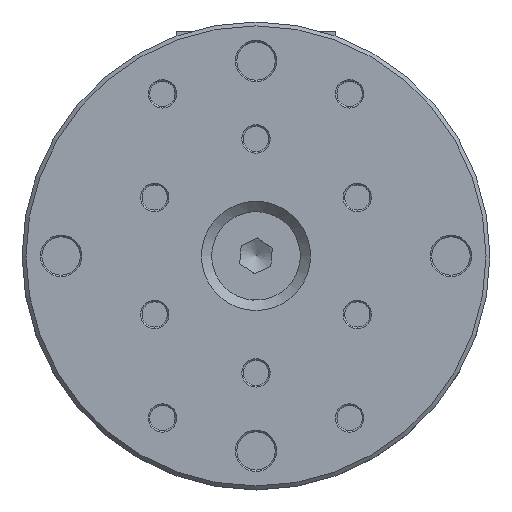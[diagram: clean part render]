
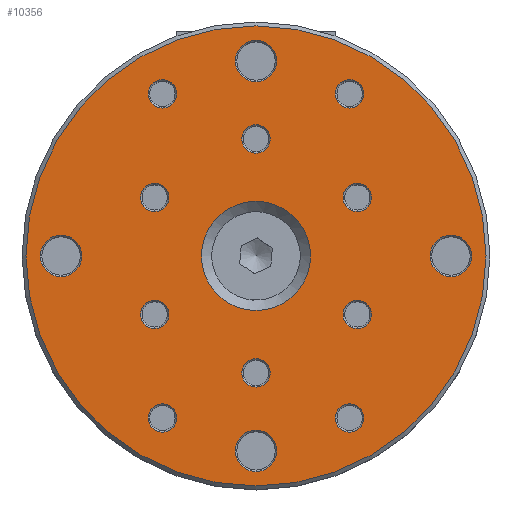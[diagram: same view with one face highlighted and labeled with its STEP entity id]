
A CAD part, top view. The second image highlights one B-rep face of the part: STEP entity #10356.
In plain terms, the highlighted planar face has unit normal (0, 0, 1).
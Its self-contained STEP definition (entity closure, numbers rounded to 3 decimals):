
#437=FACE_BOUND('',#2158,.T.);
#438=FACE_BOUND('',#2159,.T.);
#439=FACE_BOUND('',#2160,.T.);
#440=FACE_BOUND('',#2161,.T.);
#441=FACE_BOUND('',#2162,.T.);
#442=FACE_BOUND('',#2163,.T.);
#443=FACE_BOUND('',#2164,.T.);
#444=FACE_BOUND('',#2165,.T.);
#445=FACE_BOUND('',#2166,.T.);
#446=FACE_BOUND('',#2167,.T.);
#447=FACE_BOUND('',#2168,.T.);
#448=FACE_BOUND('',#2169,.T.);
#449=FACE_BOUND('',#2170,.T.);
#450=FACE_BOUND('',#2171,.T.);
#451=FACE_BOUND('',#2172,.T.);
#929=CIRCLE('',#11499,2.659);
#932=CIRCLE('',#11503,29.5);
#933=CIRCLE('',#11504,2.659);
#934=CIRCLE('',#11505,2.659);
#935=CIRCLE('',#11506,1.821);
#936=CIRCLE('',#11507,1.821);
#937=CIRCLE('',#11508,1.821);
#938=CIRCLE('',#11509,1.821);
#939=CIRCLE('',#11510,1.821);
#940=CIRCLE('',#11511,7.);
#941=CIRCLE('',#11512,1.821);
#942=CIRCLE('',#11513,1.821);
#943=CIRCLE('',#11514,1.821);
#944=CIRCLE('',#11515,1.821);
#945=CIRCLE('',#11516,1.821);
#946=CIRCLE('',#11517,2.659);
#1520=FACE_OUTER_BOUND('',#2157,.T.);
#2157=EDGE_LOOP('',(#8795));
#2158=EDGE_LOOP('',(#8796));
#2159=EDGE_LOOP('',(#8797));
#2160=EDGE_LOOP('',(#8798));
#2161=EDGE_LOOP('',(#8799));
#2162=EDGE_LOOP('',(#8800));
#2163=EDGE_LOOP('',(#8801));
#2164=EDGE_LOOP('',(#8802));
#2165=EDGE_LOOP('',(#8803));
#2166=EDGE_LOOP('',(#8804));
#2167=EDGE_LOOP('',(#8805));
#2168=EDGE_LOOP('',(#8806));
#2169=EDGE_LOOP('',(#8807));
#2170=EDGE_LOOP('',(#8808));
#2171=EDGE_LOOP('',(#8809));
#2172=EDGE_LOOP('',(#8810));
#4693=VERTEX_POINT('',#17664);
#4696=VERTEX_POINT('',#17672);
#4697=VERTEX_POINT('',#17674);
#4698=VERTEX_POINT('',#17676);
#4699=VERTEX_POINT('',#17678);
#4700=VERTEX_POINT('',#17680);
#4701=VERTEX_POINT('',#17682);
#4702=VERTEX_POINT('',#17684);
#4703=VERTEX_POINT('',#17686);
#4704=VERTEX_POINT('',#17688);
#4705=VERTEX_POINT('',#17690);
#4706=VERTEX_POINT('',#17692);
#4707=VERTEX_POINT('',#17694);
#4708=VERTEX_POINT('',#17696);
#4709=VERTEX_POINT('',#17698);
#4710=VERTEX_POINT('',#17700);
#6101=EDGE_CURVE('',#4693,#4693,#929,.T.);
#6105=EDGE_CURVE('',#4696,#4696,#932,.T.);
#6106=EDGE_CURVE('',#4697,#4697,#933,.T.);
#6107=EDGE_CURVE('',#4698,#4698,#934,.T.);
#6108=EDGE_CURVE('',#4699,#4699,#935,.T.);
#6109=EDGE_CURVE('',#4700,#4700,#936,.T.);
#6110=EDGE_CURVE('',#4701,#4701,#937,.T.);
#6111=EDGE_CURVE('',#4702,#4702,#938,.T.);
#6112=EDGE_CURVE('',#4703,#4703,#939,.T.);
#6113=EDGE_CURVE('',#4704,#4704,#940,.T.);
#6114=EDGE_CURVE('',#4705,#4705,#941,.T.);
#6115=EDGE_CURVE('',#4706,#4706,#942,.T.);
#6116=EDGE_CURVE('',#4707,#4707,#943,.T.);
#6117=EDGE_CURVE('',#4708,#4708,#944,.T.);
#6118=EDGE_CURVE('',#4709,#4709,#945,.T.);
#6119=EDGE_CURVE('',#4710,#4710,#946,.T.);
#8795=ORIENTED_EDGE('',*,*,#6105,.F.);
#8796=ORIENTED_EDGE('',*,*,#6106,.F.);
#8797=ORIENTED_EDGE('',*,*,#6107,.F.);
#8798=ORIENTED_EDGE('',*,*,#6108,.F.);
#8799=ORIENTED_EDGE('',*,*,#6109,.F.);
#8800=ORIENTED_EDGE('',*,*,#6110,.F.);
#8801=ORIENTED_EDGE('',*,*,#6111,.F.);
#8802=ORIENTED_EDGE('',*,*,#6112,.F.);
#8803=ORIENTED_EDGE('',*,*,#6113,.F.);
#8804=ORIENTED_EDGE('',*,*,#6114,.F.);
#8805=ORIENTED_EDGE('',*,*,#6115,.F.);
#8806=ORIENTED_EDGE('',*,*,#6116,.F.);
#8807=ORIENTED_EDGE('',*,*,#6117,.F.);
#8808=ORIENTED_EDGE('',*,*,#6118,.F.);
#8809=ORIENTED_EDGE('',*,*,#6119,.F.);
#8810=ORIENTED_EDGE('',*,*,#6101,.F.);
#9854=PLANE('',#11502);
#10356=ADVANCED_FACE('',(#1520,#437,#438,#439,#440,#441,#442,#443,#444,
#445,#446,#447,#448,#449,#450,#451),#9854,.T.);
#11499=AXIS2_PLACEMENT_3D('',#17665,#13958,#13959);
#11502=AXIS2_PLACEMENT_3D('',#17671,#13965,#13966);
#11503=AXIS2_PLACEMENT_3D('',#17673,#13967,#13968);
#11504=AXIS2_PLACEMENT_3D('',#17675,#13969,#13970);
#11505=AXIS2_PLACEMENT_3D('',#17677,#13971,#13972);
#11506=AXIS2_PLACEMENT_3D('',#17679,#13973,#13974);
#11507=AXIS2_PLACEMENT_3D('',#17681,#13975,#13976);
#11508=AXIS2_PLACEMENT_3D('',#17683,#13977,#13978);
#11509=AXIS2_PLACEMENT_3D('',#17685,#13979,#13980);
#11510=AXIS2_PLACEMENT_3D('',#17687,#13981,#13982);
#11511=AXIS2_PLACEMENT_3D('',#17689,#13983,#13984);
#11512=AXIS2_PLACEMENT_3D('',#17691,#13985,#13986);
#11513=AXIS2_PLACEMENT_3D('',#17693,#13987,#13988);
#11514=AXIS2_PLACEMENT_3D('',#17695,#13989,#13990);
#11515=AXIS2_PLACEMENT_3D('',#17697,#13991,#13992);
#11516=AXIS2_PLACEMENT_3D('',#17699,#13993,#13994);
#11517=AXIS2_PLACEMENT_3D('',#17701,#13995,#13996);
#13958=DIRECTION('center_axis',(0.,0.,1.));
#13959=DIRECTION('ref_axis',(-1.,0.,0.));
#13965=DIRECTION('center_axis',(0.,0.,1.));
#13966=DIRECTION('ref_axis',(1.,0.,0.));
#13967=DIRECTION('center_axis',(0.,0.,-1.));
#13968=DIRECTION('ref_axis',(-1.,0.,0.));
#13969=DIRECTION('center_axis',(0.,0.,1.));
#13970=DIRECTION('ref_axis',(-1.,0.,0.));
#13971=DIRECTION('center_axis',(0.,0.,1.));
#13972=DIRECTION('ref_axis',(-1.,0.,0.));
#13973=DIRECTION('center_axis',(0.,0.,1.));
#13974=DIRECTION('ref_axis',(-1.,0.,0.));
#13975=DIRECTION('center_axis',(0.,0.,1.));
#13976=DIRECTION('ref_axis',(-1.,0.,0.));
#13977=DIRECTION('center_axis',(0.,0.,1.));
#13978=DIRECTION('ref_axis',(-1.,0.,0.));
#13979=DIRECTION('center_axis',(0.,0.,1.));
#13980=DIRECTION('ref_axis',(-1.,0.,0.));
#13981=DIRECTION('center_axis',(0.,0.,1.));
#13982=DIRECTION('ref_axis',(-1.,0.,0.));
#13983=DIRECTION('center_axis',(0.,0.,1.));
#13984=DIRECTION('ref_axis',(-1.,0.,0.));
#13985=DIRECTION('center_axis',(0.,0.,1.));
#13986=DIRECTION('ref_axis',(-1.,0.,0.));
#13987=DIRECTION('center_axis',(0.,0.,1.));
#13988=DIRECTION('ref_axis',(-1.,0.,0.));
#13989=DIRECTION('center_axis',(0.,0.,1.));
#13990=DIRECTION('ref_axis',(-1.,0.,0.));
#13991=DIRECTION('center_axis',(0.,0.,1.));
#13992=DIRECTION('ref_axis',(-1.,0.,0.));
#13993=DIRECTION('center_axis',(0.,0.,1.));
#13994=DIRECTION('ref_axis',(-1.,0.,0.));
#13995=DIRECTION('center_axis',(0.,0.,1.));
#13996=DIRECTION('ref_axis',(-1.,0.,0.));
#17664=CARTESIAN_POINT('',(2.659,-25.,10.));
#17665=CARTESIAN_POINT('Origin',(0.,-25.,10.));
#17671=CARTESIAN_POINT('Origin',(0.,0.,
10.));
#17672=CARTESIAN_POINT('',(29.5,0.,10.));
#17673=CARTESIAN_POINT('Origin',(0.,0.,10.));
#17674=CARTESIAN_POINT('',(-22.342,0.,10.));
#17675=CARTESIAN_POINT('Origin',(-25.,0.,10.));
#17676=CARTESIAN_POINT('',(27.659,0.,10.));
#17677=CARTESIAN_POINT('Origin',(25.,0.,10.));
#17678=CARTESIAN_POINT('',(14.811,-7.5,10.));
#17679=CARTESIAN_POINT('Origin',(12.99,-7.5,10.));
#17680=CARTESIAN_POINT('',(1.821,-15.,10.));
#17681=CARTESIAN_POINT('Origin',(0.,-15.,10.));
#17682=CARTESIAN_POINT('',(-11.169,-7.5,10.));
#17683=CARTESIAN_POINT('Origin',(-12.99,-7.5,10.));
#17684=CARTESIAN_POINT('',(-10.179,20.785,10.));
#17685=CARTESIAN_POINT('Origin',(-12.,20.785,10.));
#17686=CARTESIAN_POINT('',(13.821,20.785,10.));
#17687=CARTESIAN_POINT('Origin',(12.,20.785,10.));
#17688=CARTESIAN_POINT('',(7.,0.,10.));
#17689=CARTESIAN_POINT('Origin',(0.,0.,10.));
#17690=CARTESIAN_POINT('',(1.821,15.,10.));
#17691=CARTESIAN_POINT('Origin',(0.,15.,10.));
#17692=CARTESIAN_POINT('',(-11.169,7.5,10.));
#17693=CARTESIAN_POINT('Origin',(-12.99,7.5,10.));
#17694=CARTESIAN_POINT('',(-10.179,-20.785,10.));
#17695=CARTESIAN_POINT('Origin',(-12.,-20.785,10.));
#17696=CARTESIAN_POINT('',(13.821,-20.785,10.));
#17697=CARTESIAN_POINT('Origin',(12.,-20.785,10.));
#17698=CARTESIAN_POINT('',(14.811,7.5,10.));
#17699=CARTESIAN_POINT('Origin',(12.99,7.5,10.));
#17700=CARTESIAN_POINT('',(2.659,25.,10.));
#17701=CARTESIAN_POINT('Origin',(0.,25.,10.));
